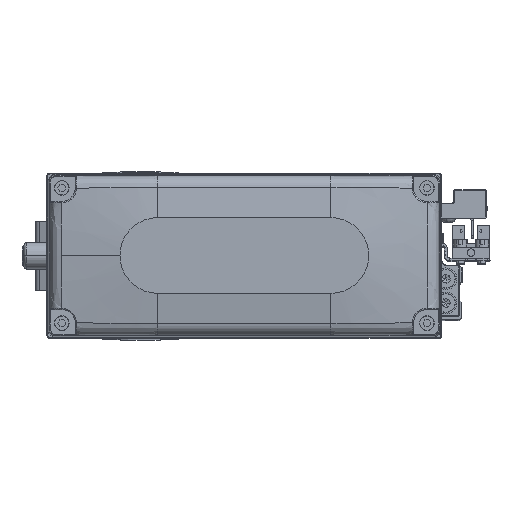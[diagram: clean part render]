
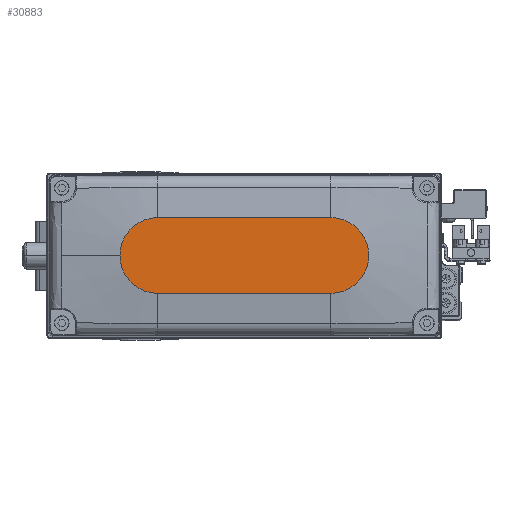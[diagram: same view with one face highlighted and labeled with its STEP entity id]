
A CAD part, top view. The second image highlights one B-rep face of the part: STEP entity #30883.
In plain terms, the highlighted planar face has unit normal (0, 0, 1).
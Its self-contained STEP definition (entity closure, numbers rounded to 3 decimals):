
#1218 = CARTESIAN_POINT ( 'NONE',  ( 32., 14., 35. ) ) ;
#1521 = FACE_OUTER_BOUND ( 'NONE', #17879, .T. ) ;
#2346 = DIRECTION ( 'NONE',  ( -1., 0., 0. ) ) ;
#2742 = DIRECTION ( 'NONE',  ( 0., 0., 1. ) ) ;
#4138 = VERTEX_POINT ( 'NONE', #23023 ) ;
#4700 = VERTEX_POINT ( 'NONE', #12777 ) ;
#5675 = ORIENTED_EDGE ( 'NONE', *, *, #14100, .T. ) ;
#6242 = CARTESIAN_POINT ( 'NONE',  ( -32., -14., 35. ) ) ;
#6298 = AXIS2_PLACEMENT_3D ( 'NONE', #28806, #42427, #11793 ) ;
#6572 = AXIS2_PLACEMENT_3D ( 'NONE', #11611, #25275, #38909 ) ;
#10971 = VERTEX_POINT ( 'NONE', #19992 ) ;
#11021 = CIRCLE ( 'NONE', #16775, 14. ) ;
#11611 = CARTESIAN_POINT ( 'NONE',  ( 32., 0., 35. ) ) ;
#11793 = DIRECTION ( 'NONE',  ( 1., 0., 0. ) ) ;
#12376 = ORIENTED_EDGE ( 'NONE', *, *, #19942, .T. ) ;
#12777 = CARTESIAN_POINT ( 'NONE',  ( -32., -14., 35. ) ) ;
#13403 = CARTESIAN_POINT ( 'NONE',  ( -32., 0., 35. ) ) ;
#14063 = AXIS2_PLACEMENT_3D ( 'NONE', #33379, #2742, #16388 ) ;
#14100 = EDGE_CURVE ( 'NONE', #10971, #29960, #25857, .T. ) ;
#15164 = PLANE ( 'NONE',  #6298 ) ;
#16388 = DIRECTION ( 'NONE',  ( 1., 0., 0. ) ) ;
#16775 = AXIS2_PLACEMENT_3D ( 'NONE', #13403, #27046, #40677 ) ;
#17562 = EDGE_CURVE ( 'NONE', #29960, #32403, #19348, .T. ) ;
#17879 = EDGE_LOOP ( 'NONE', ( #34114, #42754, #12376, #32952, #5675 ) ) ;
#18055 = VECTOR ( 'NONE', #19883, 1000. ) ;
#19348 = LINE ( 'NONE', #32992, #36821 ) ;
#19883 = DIRECTION ( 'NONE',  ( 1., 0., 0. ) ) ;
#19942 = EDGE_CURVE ( 'NONE', #4700, #4138, #36870, .T. ) ;
#19992 = CARTESIAN_POINT ( 'NONE',  ( 46., 0., 35. ) ) ;
#23023 = CARTESIAN_POINT ( 'NONE',  ( 32., -14., 35. ) ) ;
#25071 = CARTESIAN_POINT ( 'NONE',  ( -32., 14., 35. ) ) ;
#25275 = DIRECTION ( 'NONE',  ( 0., 0., 1. ) ) ;
#25857 = CIRCLE ( 'NONE', #6572, 14. ) ;
#27046 = DIRECTION ( 'NONE',  ( 0., 0., 1. ) ) ;
#27883 = EDGE_CURVE ( 'NONE', #4138, #10971, #33347, .T. ) ;
#28806 = CARTESIAN_POINT ( 'NONE',  ( 0., 0., 35. ) ) ;
#29960 = VERTEX_POINT ( 'NONE', #1218 ) ;
#30883 = ADVANCED_FACE ( 'NONE', ( #1521 ), #15164, .T. ) ;
#32403 = VERTEX_POINT ( 'NONE', #25071 ) ;
#32952 = ORIENTED_EDGE ( 'NONE', *, *, #27883, .T. ) ;
#32992 = CARTESIAN_POINT ( 'NONE',  ( -32., 14., 35. ) ) ;
#33347 = CIRCLE ( 'NONE', #14063, 14. ) ;
#33379 = CARTESIAN_POINT ( 'NONE',  ( 32., 0., 35. ) ) ;
#34114 = ORIENTED_EDGE ( 'NONE', *, *, #17562, .T. ) ;
#36821 = VECTOR ( 'NONE', #2346, 1000. ) ;
#36870 = LINE ( 'NONE', #6242, #18055 ) ;
#38909 = DIRECTION ( 'NONE',  ( 1., 0., 0. ) ) ;
#40677 = DIRECTION ( 'NONE',  ( 1., 0., 0. ) ) ;
#40995 = EDGE_CURVE ( 'NONE', #32403, #4700, #11021, .T. ) ;
#42427 = DIRECTION ( 'NONE',  ( 0., 0., 1. ) ) ;
#42754 = ORIENTED_EDGE ( 'NONE', *, *, #40995, .T. ) ;
